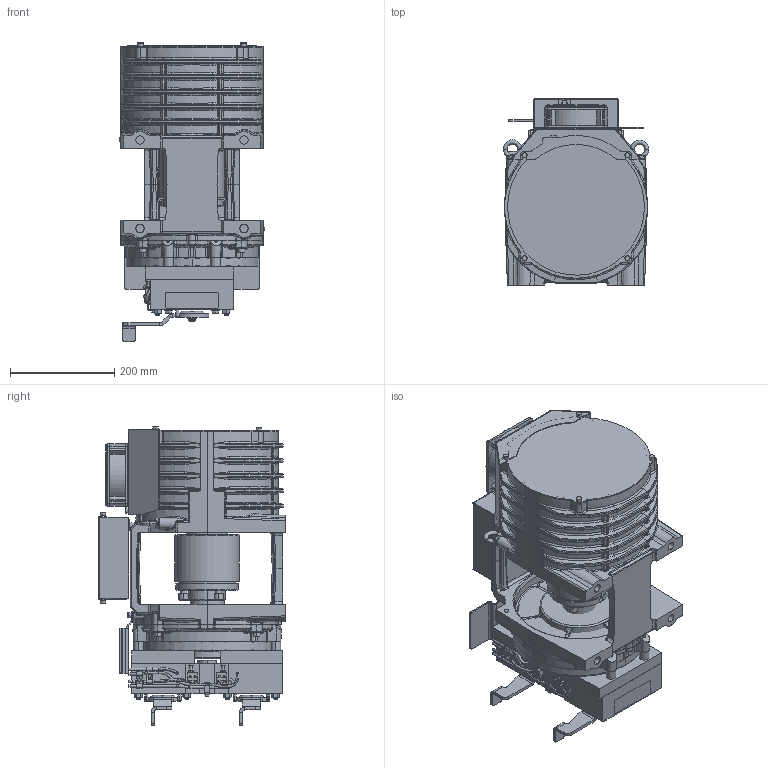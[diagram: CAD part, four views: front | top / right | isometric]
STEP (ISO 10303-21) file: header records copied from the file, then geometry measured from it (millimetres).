
FILE_DESCRIPTION((''),'2;1');
FILE_NAME('00349213_ASM','2019-06-03T',('polieridb'),('Sicor spa'),'CREO PARAMETRIC BY PTC INC, 2017170','CREO PARAMETRIC BY PTC INC, 2017170','');
FILE_SCHEMA(('CONFIG_CONTROL_DESIGN'));
Products named in the file (3): 00332487_SW0001; 00316292; 00349213_ASM
Assembly tree (2 placements, depth 2):
  00349213_ASM
    00332487_SW0001
    00316292
Bounding box: 280 x 358 x 574.52 mm (x, y, z)
Volume: 666246.2 mm3; surface area: 1874279.1 mm2
Topology: 1 solids, 172 shells, 3167 faces, 8688 edges, 5451 vertices
Faces by surface type: cylinder 890, bspline 829, plane 729, torus 346, cone 285, sphere 68, extrusion 13, revolution 7
Entity records: 184516 total; most frequent: CARTESIAN_POINT 114449, ORIENTED_EDGE 15362, DIRECTION 12401, EDGE_CURVE 8603, VERTEX_POINT 5451, AXIS2_PLACEMENT_3D 4959, B_SPLINE_CURVE_WITH_KNOTS 3526, EDGE_LOOP 3179
